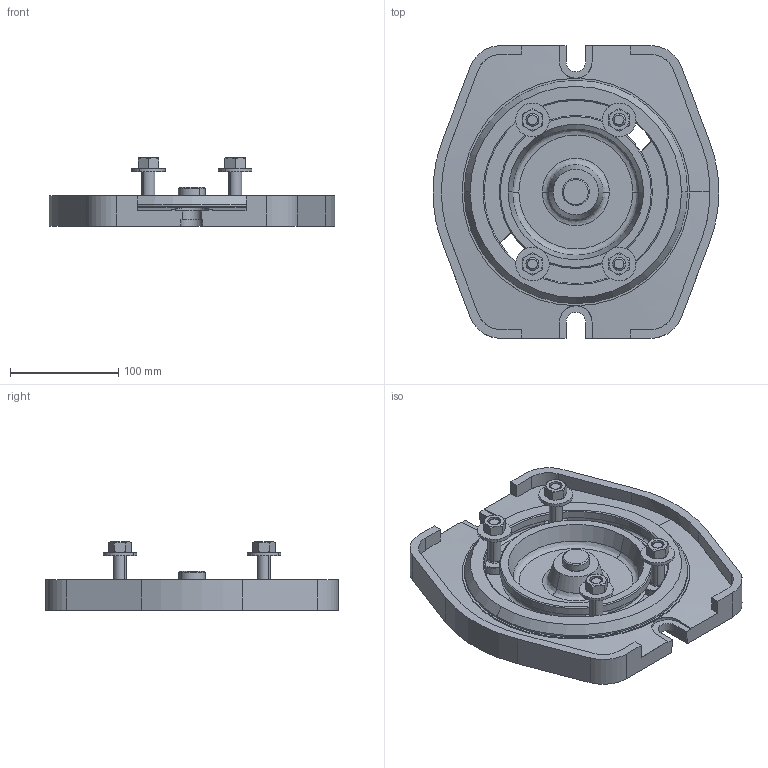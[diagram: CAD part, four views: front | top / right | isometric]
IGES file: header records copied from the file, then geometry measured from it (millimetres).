
Start section: 3D InterOp IGES (v. 2020 1.0.1), Spatial Corp. Copyright (c) 1999-2017.
Global section: file name: HWS5001_125.igs; native system: Spatial Corp.; preprocessor: 3D InterOp GENERIC/IGES 3.0; author: Noname; organization: Noname; date: 20210303.093157; units: metre
Bounding box: 263.65 x 270 x 63 mm (x, y, z)
Surface area: 221347.6 mm2 (no closed solid volume)
Topology: 0 solids, 0 shells, 385 faces, 1890 edges, 1886 vertices
Faces by surface type: revolution 238, extrusion 147
